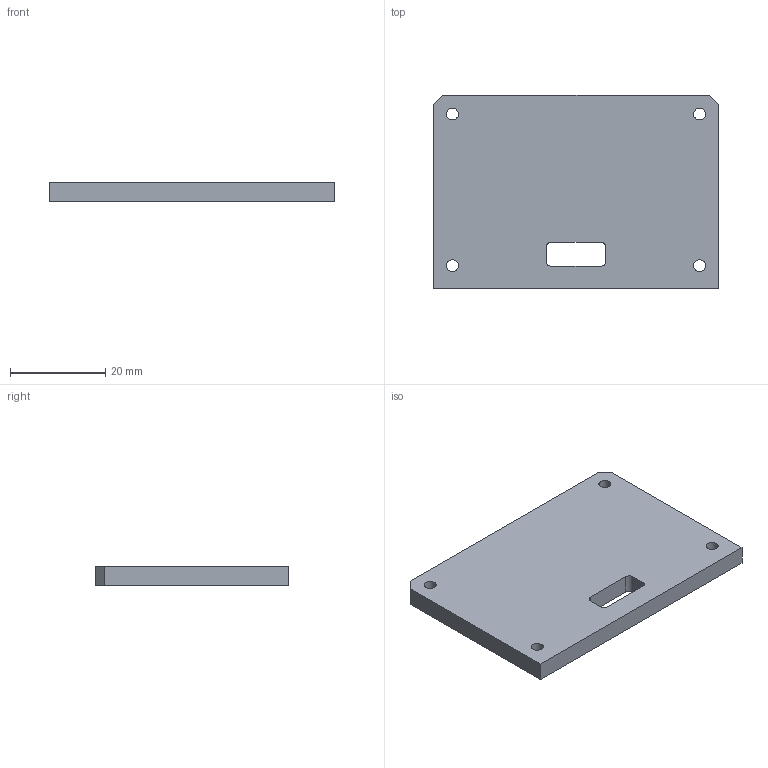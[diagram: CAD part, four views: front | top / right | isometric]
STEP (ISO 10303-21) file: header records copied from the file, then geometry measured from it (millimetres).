
FILE_DESCRIPTION(/* description */ (''),/* implementation_level */ '2;1');
FILE_NAME(/* name */ 'C:/#Projekte/Linear-Motor/STEP/Carriage_top_1.step',/* time_stamp */ '2019-01-06T11:24:07+01:00',/* author */ (''),/* organization */ (''),/* preprocessor_version */ 'ST-DEVELOPER v17.2',/* originating_system */ 'Autodesk Translation Framework v7.6.0.251',/* authorisation */ '');
FILE_SCHEMA (('AUTOMOTIVE_DESIGN { 1 0 10303 214 3 1 1 }'));
Length unit declared in the file: millimetre
Products named in the file (1): Fusion-Komponente
Bounding box: 60 x 40.8 x 4 mm (x, y, z)
Volume: 9449.7 mm3; surface area: 5781.2 mm2
Topology: 1 solids, 1 shells, 20 faces, 54 edges, 36 vertices
Faces by surface type: plane 12, cylinder 8
Full cylindrical faces by diameter (mm): 2.5 x4
Entity records: 694 total; most frequent: DIRECTION 112, CARTESIAN_POINT 111, ORIENTED_EDGE 108, EDGE_CURVE 54, LINE 38, VECTOR 38, AXIS2_PLACEMENT_3D 37, VERTEX_POINT 36
